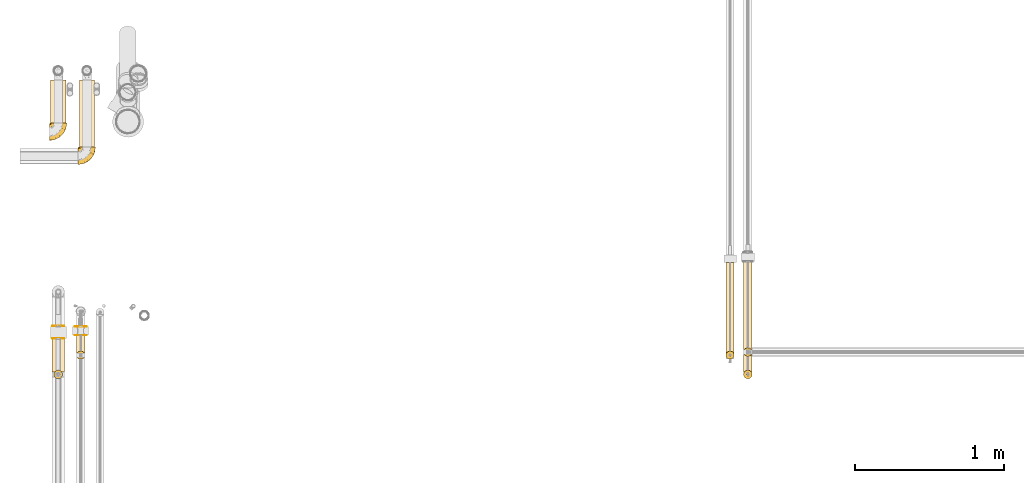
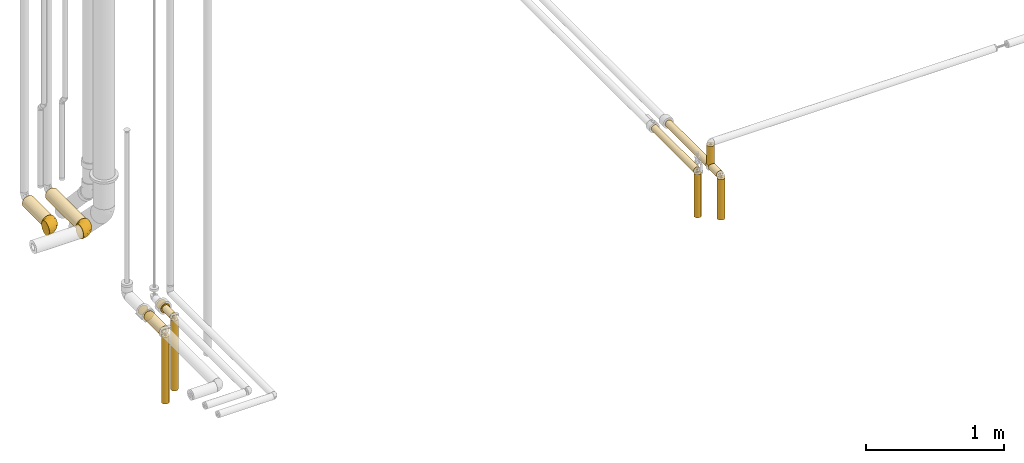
# One storey, part 2 of 78: 18 coverings.
"""IFC2X3 building model written with IfcOpenShell, lengths in millimetres."""

from ifc_helpers import new_model, entity, si_unit, converted_unit, derived_unit, direction, frame, origin_with_axes, origin_2d_with_axis, place, context, subcontext, project, spatial, hollow_circle, extrude, open_shell, surface_model, source, transform, mapped, element, save


model = new_model("IFC2X3")

# Units and contexts
model_context = context("Model", 3, precision=0.01, world=frame((0.0, 4.29681676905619e-09, 0.0)), true_north=direction((4.01073788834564e-13, 1.0)))
plan_context = context("Plan", 3, precision=0.01, world=frame((0.0, 4.29681676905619e-09, 0.0)), true_north=direction((4.01073788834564e-13, 1.0)))
body_context = subcontext(model_context, "Body", "Model", "MODEL_VIEW")
ifc_project = project(units=[converted_unit("PLANEANGLEUNIT", "DEGREE", entity("IfcPositiveLengthMeasure", 0.0174532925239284), si_unit("PLANEANGLEUNIT", "RADIAN"), dimensions=[0, 0, 0, 0, 0, 0, 0]), si_unit("AREAUNIT", "SQUARE_METRE"), si_unit("LENGTHUNIT", "METRE", prefix="MILLI"), si_unit("MASSUNIT", "GRAM", prefix="KILO"), si_unit("POWERUNIT", "WATT"), si_unit("PRESSUREUNIT", "PASCAL"), si_unit("FORCEUNIT", "NEWTON", prefix="KILO"), si_unit("ELECTRICVOLTAGEUNIT", "VOLT"), si_unit("ELECTRICCURRENTUNIT", "AMPERE"), si_unit("THERMODYNAMICTEMPERATUREUNIT", "DEGREE_CELSIUS"), si_unit("TIMEUNIT", "SECOND"), si_unit("VOLUMEUNIT", "CUBIC_METRE"), derived_unit("LINEARVELOCITYUNIT", [(si_unit("LENGTHUNIT", "METRE"), 1), (si_unit("TIMEUNIT", "SECOND"), -1)]), derived_unit("VOLUMETRICFLOWRATEUNIT", [(si_unit("VOLUMEUNIT", "CUBIC_METRE"), 1), (si_unit("TIMEUNIT", "SECOND"), -1)]), derived_unit("THERMALTRANSMITTANCEUNIT", [(si_unit("POWERUNIT", "WATT"), 1), (si_unit("THERMODYNAMICTEMPERATUREUNIT", "KELVIN"), -1), (si_unit("AREAUNIT", "SQUARE_METRE"), -1)]), derived_unit("SOUNDPRESSUREUNIT", [(si_unit("PRESSUREUNIT", "PASCAL"), 1)])], contexts=[model_context, plan_context])

# Site, building, storey
site_placement = place(None, frame((0.0, -4.29681676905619e-09, 0.0), z_axis=(0.0, 0.0, 1.0), x_axis=(1.0, 0.0, 0.0)))
site = spatial("IfcSite", under=ifc_project, at=site_placement, Name="ENGM", CompositionType="ELEMENT")
building_placement = place(site_placement, frame((0.0, 4.29681676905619e-09, 0.0), z_axis=(0.0, 0.0, 1.0), x_axis=(1.0, 0.0, 0.0)))
building = spatial("IfcBuilding", under=site, at=building_placement, Name="TH", CompositionType="ELEMENT")
storey_placement = place(building_placement, frame((0.0, 0.0, 205200.0), z_axis=(0.0, 0.0, 1.0), x_axis=(1.0, 0.0, 0.0)))
storey = spatial("IfcBuildingStorey", under=building, at=storey_placement, Name="Nivå D + 1,2 m", CompositionType="ELEMENT", Elevation=205200.0)

# Coverings
shared_shape_1 = source(origin_with_axes(), body_context, "Body", "SweptSolid", [
    extrude(hollow_circle(Radius=27.5, WallThickness=20.0, at=origin_2d_with_axis()), frame((0.0, 0.0, 0.0), z_axis=(1.0, 0.0, 0.0), x_axis=(0.0, 1.0, 0.0)), (0.0, 0.0, 1.0), 381.7),
])
covering_1_placement = place(storey_placement, frame((899890.50163, 478254.37338, 4197.79203000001), z_axis=(-1.0, 0.0, 0.0), x_axis=(0.0, 3.999999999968e-06, -0.999999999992)))
element("IfcCovering", 1, at=covering_1_placement, inside=storey, Name="BI16T - Rørskål m/Al.folie - VV 40mm", PredefinedType="INSULATION", context=body_context, shape_type="MappedRepresentation", body=[
    mapped(shared_shape_1, transform((0.0, 0.0, 0.0), scale=1.0)),
])
shared_shape_2 = source(origin_with_axes(), body_context, "Body", "SweptSolid", [
    extrude(hollow_circle(Radius=29.0, WallThickness=20.0, at=origin_2d_with_axis()), frame((0.0, 0.0, 0.0), z_axis=(1.0, 0.0, 0.0), x_axis=(0.0, 1.0, 0.0)), (0.0, 0.0, 1.0), 358.3),
])
covering_2_placement = place(storey_placement, frame((900010.50163, 478124.37013, 3833.67963999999), z_axis=(0.0, 1.0, 0.0), x_axis=(0.0, 0.0, 1.0)))
element("IfcCovering", 2, at=covering_2_placement, inside=storey, Name="BI20T - Cellegummi 13 mm kalde rør", PredefinedType="INSULATION", context=body_context, shape_type="MappedRepresentation", body=[
    mapped(shared_shape_2, transform((0.0, 0.0, 0.0), scale=1.0)),
])
shared_shape_3 = source(origin_with_axes(), body_context, "Body", "SweptSolid", [
    extrude(hollow_circle(Radius=52.0, WallThickness=27.0, at=origin_2d_with_axis()), frame((0.0, 0.0, 0.0), z_axis=(1.0, 0.0, 0.0), x_axis=(0.0, 1.0, 0.0)), (0.0, 0.0, 1.0), 291.4),
])
covering_3_placement = place(storey_placement, frame((895369.84063, 480107.50014, 4400.0), z_axis=(0.0, 0.0, 1.0), x_axis=(0.0, -1.0, 0.0)))
element("IfcCovering", 3, at=covering_3_placement, inside=storey, Name="BI20T - Cellegummi 13 mm kalde rør", PredefinedType="INSULATION", context=body_context, shape_type="MappedRepresentation", body=[
    mapped(shared_shape_3, transform((0.0, 0.0, 0.0), scale=1.0)),
])
shared_shape_4 = source(origin_with_axes(), body_context, "Body", "SweptSolid", [
    extrude(hollow_circle(Radius=52.0, WallThickness=27.0, at=origin_2d_with_axis()), frame((0.0, 0.0, 0.0), z_axis=(1.0, 0.0, 0.0), x_axis=(0.0, 1.0, 0.0)), (0.0, 0.0, 1.0), 452.8),
])
covering_4_placement = place(storey_placement, frame((895562.81931, 480107.50014, 4400.0), z_axis=(0.0, 0.0, 1.0), x_axis=(0.0, -1.0, 0.0)))
element("IfcCovering", 4, at=covering_4_placement, inside=storey, Name="BI20T - Cellegummi 13 mm kalde rør", PredefinedType="INSULATION", context=body_context, shape_type="MappedRepresentation", body=[
    mapped(shared_shape_4, transform((0.0, 0.0, 0.0), scale=1.0)),
])
shared_shape_5 = source(origin_with_axes(), body_context, "Body", "SurfaceModel", [
    surface_model("IfcShellBasedSurfaceModel", [(2.0, 0.0, 40.0), (2.0, -20.0, 34.64102), (2.0, -34.64102, 20.0), (2.0, -40.0, 0.0), (2.0, 20.0, 34.64102), (2.0, 34.64102, 20.0), (2.0, -20.0, -34.64102), (2.0, 34.64102, -20.0), (2.0, 20.0, -34.64102), (2.0, 0.0, -40.0), (2.0, 40.0, 0.0), (2.0, -34.64102, -20.0), (0.0, -34.64102, 20.0), (0.0, 0.0, 40.0), (0.0, 20.0, 34.64102), (0.0, -34.64102, -20.0), (0.0, -40.0, 0.0), (0.0, -20.0, 34.64102), (0.0, 34.64102, 20.0), (0.0, 40.0, 0.0), (0.0, 34.64102, -20.0), (0.0, 20.0, -34.64102), (0.0, -20.0, -34.64102), (0.0, 0.0, -40.0), (2.0, -36.4684, -13.1801), (0.0, -37.32051, -10.0), (0.0, -27.32051, -27.32051), (0.0, -13.1801, -36.4684), (2.0, -10.0, -37.32051), (2.0, -27.32051, -27.32051), (2.0, 13.1801, -36.4684), (0.0, 10.0, -37.32051), (0.0, 27.32051, -27.32051), (0.0, 36.4684, -13.1801), (2.0, 37.32051, -10.0), (2.0, 27.32051, -27.32051), (2.0, 36.4684, 13.1801), (0.0, 37.32051, 10.0), (0.0, 27.32051, 27.32051), (0.0, 13.1801, 36.4684), (2.0, 10.0, 37.32051), (2.0, 27.32051, 27.32051), (2.0, -13.1801, 36.4684), (0.0, -10.0, 37.32051), (0.0, -27.32051, 27.32051), (0.0, -36.4684, 13.1801), (2.0, -37.32051, 10.0), (2.0, -27.32051, 27.32051)], [open_shell([[[0, 1, 2]], [[0, 2, 3]], [[3, 4, 0]], [[5, 4, 6]], [[4, 3, 6]], [[5, 6, 7]], [[8, 6, 9]], [[7, 10, 5]], [[7, 6, 8]], [[3, 11, 6]], [[12, 13, 14]], [[15, 16, 14]], [[13, 12, 17]], [[12, 14, 16]], [[14, 18, 15]], [[19, 20, 21]], [[19, 21, 22]], [[19, 22, 15]], [[22, 21, 23]], [[19, 15, 18]], [[15, 24, 25]], [[25, 3, 16]], [[3, 25, 24]], [[6, 26, 22]], [[6, 27, 28]], [[27, 6, 22]], [[26, 6, 29]], [[23, 28, 27]], [[29, 11, 15]], [[29, 15, 26]], [[23, 9, 28]], [[15, 11, 24]], [[21, 30, 31]], [[31, 9, 23]], [[9, 31, 30]], [[7, 32, 20]], [[7, 33, 34]], [[33, 7, 20]], [[32, 7, 35]], [[19, 34, 33]], [[35, 8, 21]], [[35, 21, 32]], [[19, 10, 34]], [[21, 8, 30]], [[18, 36, 37]], [[37, 10, 19]], [[10, 37, 36]], [[4, 38, 14]], [[4, 39, 40]], [[39, 4, 14]], [[38, 4, 41]], [[13, 40, 39]], [[41, 5, 18]], [[41, 18, 38]], [[13, 0, 40]], [[18, 5, 36]], [[17, 42, 43]], [[43, 0, 13]], [[0, 43, 42]], [[2, 44, 12]], [[2, 45, 46]], [[45, 2, 12]], [[44, 2, 47]], [[16, 46, 45]], [[47, 1, 17]], [[47, 17, 44]], [[16, 3, 46]], [[17, 1, 42]]])]),
])
for number, where, z_axis, x_axis, name in (
    (5, (895520.48466, 478446.98509, 4450.0), (0.0, 0.0, 1.0), (0.0, 1.0, 0.0), "Rørskål m/Al.folje - Varme 55 (uisolert oppheng)"),
    (6, (895520.48466, 478388.98509, 4450.0), (0.0, 0.0, 1.0), (0.0, -1.0, 0.0), "Rørskål m/Al.folje - Varme 55 (uisolert oppheng)"),
):
    element("IfcCovering", number, at=place(storey_placement, frame(where, z_axis=z_axis, x_axis=x_axis)), inside=storey, Name=name, PredefinedType="INSULATION", context=body_context, shape_type="MappedRepresentation", body=[
        mapped(shared_shape_5, transform((0.0, 0.0, 0.0), scale=1.0)),
    ])
shared_shape_6 = source(origin_with_axes(), body_context, "Body", "SurfaceModel", [
    surface_model("IfcShellBasedSurfaceModel", [(3.0, 0.0, 41.5), (3.0, -20.75, 35.94006), (3.0, -35.94006, 20.75), (3.0, -35.94006, -20.75), (3.0, 20.75, 35.94006), (3.0, 35.94006, 20.75), (3.0, 41.5, 0.0), (3.0, -41.5, 0.0), (3.0, -20.75, -35.94006), (3.0, 0.0, -41.5), (3.0, 20.75, -35.94006), (3.0, 35.94006, -20.75), (0.0, -35.94006, 20.75), (0.0, 0.0, 41.5), (0.0, 20.75, 35.94006), (0.0, -35.94006, -20.75), (0.0, -20.75, 35.94006), (0.0, -41.5, 0.0), (0.0, 35.94006, 20.75), (0.0, 41.5, 0.0), (0.0, 35.94006, -20.75), (0.0, 20.75, -35.94006), (0.0, -20.75, -35.94006), (0.0, 0.0, -41.5), (3.0, -37.90279, -13.42496), (0.0, -38.72003, -10.375), (0.0, -28.34503, -28.34503), (0.0, -13.42496, -37.90279), (3.0, -10.375, -38.72003), (3.0, -28.34503, -28.34503), (3.0, 13.42496, -37.90279), (0.0, 10.375, -38.72003), (0.0, 28.34503, -28.34503), (0.0, 37.90279, -13.42496), (3.0, 38.72003, -10.375), (3.0, 28.34503, -28.34503), (3.0, 37.90279, 13.42496), (0.0, 38.72003, 10.375), (0.0, 28.34503, 28.34503), (0.0, 13.42496, 37.90279), (3.0, 10.375, 38.72003), (3.0, 28.34503, 28.34503), (3.0, -13.42496, 37.90279), (0.0, -10.375, 38.72003), (0.0, -28.34503, 28.34503), (0.0, -37.90279, 13.42496), (3.0, -38.72003, 10.375), (3.0, -28.34503, 28.34503)], [open_shell([[[0, 1, 2]], [[3, 4, 2]], [[2, 4, 0]], [[5, 4, 6]], [[3, 2, 7]], [[6, 3, 8]], [[6, 8, 9]], [[6, 10, 11]], [[10, 6, 9]], [[3, 6, 4]], [[12, 13, 14]], [[14, 15, 12]], [[13, 12, 16]], [[17, 12, 15]], [[14, 18, 15]], [[19, 20, 21]], [[19, 21, 22]], [[19, 22, 15]], [[22, 21, 23]], [[19, 15, 18]], [[15, 24, 25]], [[25, 7, 17]], [[7, 25, 24]], [[8, 26, 22]], [[8, 27, 28]], [[27, 8, 22]], [[26, 8, 29]], [[23, 28, 27]], [[29, 3, 15]], [[29, 15, 26]], [[23, 9, 28]], [[15, 3, 24]], [[21, 30, 31]], [[31, 9, 23]], [[9, 31, 30]], [[11, 32, 20]], [[11, 33, 34]], [[33, 11, 20]], [[32, 11, 35]], [[19, 34, 33]], [[35, 10, 21]], [[35, 21, 32]], [[19, 6, 34]], [[21, 10, 30]], [[18, 36, 37]], [[37, 6, 19]], [[6, 37, 36]], [[4, 38, 14]], [[4, 39, 40]], [[39, 4, 14]], [[38, 4, 41]], [[13, 40, 39]], [[41, 5, 18]], [[41, 18, 38]], [[13, 0, 40]], [[18, 5, 36]], [[16, 42, 43]], [[43, 0, 13]], [[0, 43, 42]], [[2, 44, 12]], [[2, 45, 46]], [[45, 2, 12]], [[44, 2, 47]], [[17, 46, 45]], [[47, 1, 16]], [[47, 16, 44]], [[17, 7, 46]], [[16, 1, 42]]])]),
])
for number, where, z_axis, x_axis in (
    (7, (895369.5, 478448.45641, 4450.0), (0.0, 0.0, 1.0), (0.0, 1.0, 0.0)),
    (8, (895369.5, 478367.45641, 4450.0), (0.0, 0.0, 1.0), (0.0, -1.0, 0.0)),
):
    element("IfcCovering", number, at=place(storey_placement, frame(where, z_axis=z_axis, x_axis=x_axis)), inside=storey, Name="BI20T - Cellegummi 13 mm kalde rør", PredefinedType="INSULATION", context=body_context, shape_type="MappedRepresentation", body=[
        mapped(shared_shape_6, transform((0.0, 0.0, 0.0), scale=1.0)),
    ])
shared_shape_7 = source(origin_with_axes(), body_context, "Body", "SweptSolid", [
    extrude(hollow_circle(Radius=27.5, WallThickness=20.0, at=origin_2d_with_axis()), frame((0.0, 0.0, 0.0), z_axis=(1.0, 0.0, 0.0), x_axis=(0.0, 1.0, 0.0)), (0.0, 0.0, 1.0), 613.8),
])
covering_5_placement = place(storey_placement, frame((899890.50163, 478879.43178, 4212.79203000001), z_axis=(0.0, 0.0, 1.0), x_axis=(0.0, -1.0, 0.0)))
element("IfcCovering", 9, at=covering_5_placement, inside=storey, Name="BI16T - Rørskål m/Al.folie - VV 40mm", PredefinedType="INSULATION", context=body_context, shape_type="MappedRepresentation", body=[
    mapped(shared_shape_7, transform((0.0, 0.0, 0.0), scale=1.0)),
])
shared_shape_8 = source(origin_with_axes(), body_context, "Body", "SweptSolid", [
    extrude(hollow_circle(Radius=29.0, WallThickness=20.0, at=origin_2d_with_axis()), frame((0.0, 0.0, 0.0), z_axis=(1.0, 0.0, 0.0), x_axis=(0.0, 1.0, 0.0)), (0.0, 0.0, 1.0), 115.1),
])
covering_6_placement = place(storey_placement, frame((900010.50163, 478257.49112, 4210.0), z_axis=(0.0, 0.0, 1.0), x_axis=(0.0, -1.0, 0.0)))
element("IfcCovering", 10, at=covering_6_placement, inside=storey, Name="BI20T - Cellegummi 13 mm kalde rør", PredefinedType="INSULATION", context=body_context, shape_type="MappedRepresentation", body=[
    mapped(shared_shape_8, transform((0.0, 0.0, 0.0), scale=1.0)),
])
shared_shape_9 = source(origin_with_axes(), body_context, "Body", "SurfaceModel", [
    surface_model("IfcShellBasedSurfaceModel", [(0.0, 60.4, 57.2), (12.73183, 60.4, 55.76505), (24.82435, 60.4, 51.53243), (35.67108, 60.4, 44.71481), (44.72807, 60.4, 35.65444), (51.54128, 60.4, 24.80597), (-51.53243, 60.4, 24.82435), (-12.71364, 60.4, 55.7692), (55.7692, 60.4, 12.71364), (-24.80597, 60.4, 51.54128), (-35.65444, 60.4, 44.72807), (-44.71481, 60.4, 35.67108), (-57.2, 60.4, 0.0), (-55.76505, 60.4, 12.73183), (57.2, 60.4, 0.0), (55.76505, 60.4, -12.73183), (51.53243, 60.4, -24.82435), (-44.72807, 60.4, -35.65444), (44.71481, 60.4, -35.67108), (35.65444, 60.4, -44.72807), (24.80597, 60.4, -51.54128), (12.71364, 60.4, -55.7692), (0.0, 60.4, -57.2), (-55.7692, 60.4, -12.71364), (-51.54128, 60.4, -24.80597), (-12.73183, 60.4, -55.76505), (-35.67108, 60.4, -44.71481), (-24.82435, 60.4, -51.53243), (-60.4, 55.25096, -14.80445), (-60.4, 55.25096, 14.80445), (-60.4, 57.2, 0.0), (-60.4, 28.6, -49.53665), (-60.4, 49.53665, -28.6), (-60.4, 14.80445, 55.25096), (-60.4, -14.80445, 55.25096), (-60.4, 40.44651, -40.44651), (-60.4, 40.44651, 40.44651), (-60.4, 49.53665, 28.6), (-60.4, 28.6, 49.53665), (-60.4, 0.0, 57.2), (-60.4, 0.0, -57.2), (-60.4, 14.80445, -55.25096), (-60.4, -14.80445, -55.25096), (-60.4, -49.53665, -28.6), (-60.4, -28.6, -49.53665), (-60.4, -55.25096, -14.80445), (-60.4, -40.44651, -40.44651), (-60.4, -57.2, 0.0), (-60.4, -40.44651, 40.44651), (-60.4, -28.6, 49.53665), (-60.4, -55.25096, 14.80445), (-60.4, -49.53665, 28.6), (-16.40032, -39.44212, 29.99051), (-33.2938, -50.47449, 19.59265), (-5.124, -41.18263, 14.81537), (-24.0596, -51.44425, 0.0), (-35.9732, -53.88484, 9.1332), (-46.33407, -54.97218, 0.0), (20.27058, -20.27058, 19.7412), (5.7313, -26.1495, 30.28832), (-39.92996, -44.9732, 32.68315), (-16.39908, -0.01959, 55.37238), (-17.69075, 17.69075, 57.2), (-37.28592, 4.59768, 57.2), (-33.91818, -34.60383, 42.55163), (-9.09239, -26.54028, 40.34186), (-20.91364, -19.95893, 49.22319), (26.86043, 5.12569, 37.84115), (28.539, 23.36269, 44.4968), (15.96395, 5.32617, 46.18062), (5.87121, 10.59134, 52.58793), (-2.70981, 19.14225, 56.22334), (-1.34864, -7.7114, 48.85735), (11.85537, -11.33448, 39.45229), (31.39762, 43.4811, 46.76057), (-38.98003, -8.59579, 55.96028), (-42.72189, -23.23046, 51.40924), (51.4364, 33.21936, 16.75188), (44.01195, 8.75017, 11.22164), (40.70656, 13.12928, 25.48046), (32.27055, -4.52079, 22.12365), (31.19884, -11.52169, 11.35985), (21.80864, -11.14481, 30.19434), (46.73576, 34.10851, 27.93512), (40.12029, 36.73404, 37.8698), (54.97218, 46.33407, 0.0), (34.7404, -8.72355, 0.0), (21.73197, -21.73197, 0.0), (8.17658, 38.87329, 56.03698), (-4.59768, 37.28592, 57.2), (19.97965, 36.14668, 52.12307), (51.44425, 24.0596, 0.0), (8.72355, -34.7404, 0.0), (15.2979, -28.43751, 10.02581), (43.09232, 7.66803, 0.0), (-7.66803, -43.09232, 0.0), (-51.70903, 1.72874, 57.2), (-49.43436, 55.5961, 30.43919), (-46.63139, 51.34868, 36.64199), (-40.87108, 51.30816, 41.97457), (-55.90138, 35.21985, 45.37981), (-50.38202, 23.21534, 52.84591), (-50.51528, 36.80827, 45.37981), (-56.4927, 45.89693, 34.82115), (-59.9746, 57.37621, 0.0), (-43.40175, 25.10633, 53.11578), (-58.73575, 53.03152, 21.88949), (-57.55241, 59.5492, 0.0), (-56.00149, 57.50046, 15.24231), (-54.19121, 58.80005, 18.89697), (-36.79791, 28.33635, 53.3671), (-28.32927, 21.52677, 56.31821), (-29.41131, 31.08185, 54.37943), (-1.72874, 51.70903, 57.2), (-57.84483, 58.84323, 0.0), (-58.47664, 56.66049, 10.67607), (-59.26863, 57.66863, 0.0), (-59.29878, 56.42374, 10.25036), (-22.73556, 35.93141, 55.06399), (-20.19199, 50.03912, 53.99482), (-32.94093, 48.37057, 48.43934), (-48.64642, 58.12491, 30.43919), (-41.07043, 55.41908, 40.45403), (-30.96786, 54.70291, 48.43934), (-46.17013, 46.40169, 40.45403), (-39.56815, 46.07446, 45.1506), (-52.25273, 46.76303, 35.92057), (-53.62524, 53.42082, 26.53384), (-56.91191, 53.69944, 21.88949), (-38.81793, 38.81285, 48.77847), (-46.23404, 40.1485, 44.70316), (-52.05558, 54.67223, 27.27403), (-57.11198, 56.8451, 13.60836), (-11.14421, 27.48834, 57.2), (-46.97172, 11.91358, 56.30331), (-37.24986, 17.10437, 56.07196), (-58.13726, 58.13726, 0.0), (-58.70294, 57.90294, 0.0), (-27.48834, 11.14421, 57.2), (-31.95453, 40.54977, 51.09475), (-58.73575, 53.03152, -21.88949), (-59.29878, 56.42374, -10.25036), (-56.91191, 53.69944, -21.88949), (-30.98517, 54.7063, -48.42825), (-41.08499, 55.42283, -40.43899), (-58.47664, 56.66049, -10.67607), (-22.75073, 35.92579, -55.06127), (-20.20993, 50.04337, -53.98837), (-4.59768, 37.28592, -57.2), (-46.97171, 11.91356, -56.30332), (-50.38125, 23.21554, -52.84591), (-53.62583, 53.41296, -26.54383), (-52.0661, 54.67597, -27.25413), (-46.63502, 51.35364, -36.63509), (-55.90053, 35.22001, -45.37981), (-56.00468, 57.50344, -15.22674), (-54.19744, 58.80171, -18.87854), (-49.44451, 55.60056, -30.42155), (-56.4924, 45.89701, -34.82115), (-50.51383, 36.80888, -45.37981), (-40.89055, 51.31359, -41.95609), (-32.9571, 48.37762, -48.42825), (-39.57579, 46.07566, -45.14517), (-48.6573, 58.127, -30.42154), (-52.25324, 46.76172, -35.92164), (-46.18085, 46.41223, -40.43899), (-57.11122, 56.84451, -13.61226), (-38.83168, 38.81715, -48.77065), (-31.52927, 41.35373, -51.04452), (-29.4231, 31.0808, -54.37687), (-1.72874, 51.70903, -57.2), (-37.28592, 4.59768, -57.2), (-37.25051, 17.10289, -56.07216), (-17.69075, 17.69075, -57.2), (-11.14421, 27.48834, -57.2), (-28.33044, 21.52992, -56.31765), (-27.48834, 11.14421, -57.2), (-46.24666, 40.16569, -44.68614), (-43.40163, 25.09957, -53.11824), (-51.70903, 1.72874, -57.2), (-36.80414, 28.33497, -53.3661), (-19.1226, 2.69036, -56.21823), (-35.97321, -53.88483, -9.1333), (-32.63535, -34.40888, -42.40278), (-10.78926, -21.08989, -45.23931), (-2.91839, -27.13546, -36.15861), (3.4189, -31.14576, -25.51266), (-16.39123, -39.43886, -29.98941), (10.86028, 33.39637, -54.97306), (-38.60134, -8.99179, -55.85413), (-5.12319, -41.18255, -14.81419), (-33.29034, -50.47376, -19.59235), (-35.75037, -22.52536, -50.89239), (-39.92461, -44.97257, -32.68257), (40.69864, 13.13181, -25.49703), (51.43099, 33.21953, -16.76917), (44.00251, 8.73404, -11.22815), (29.94469, -4.98116, -25.66159), (20.26994, -20.26994, -19.74366), (15.78005, -17.49223, -30.24098), (17.10392, 20.9258, -50.65058), (21.66375, 41.15246, -51.97185), (33.34067, -7.30988, -14.85602), (15.29773, -28.43735, -10.0271), (39.49114, 32.68303, -37.41609), (31.1561, 39.39309, -46.33826), (32.19935, 7.55767, -33.70356), (-0.00702, 16.42569, -55.382), (7.89271, -0.46499, -48.02004), (47.76845, 40.22751, -28.43182), (27.11171, 13.74523, -42.05495), (-10.55804, -5.90498, -52.56779), (11.84664, -11.32453, -39.46615)], [open_shell([[[0, 1, 2]], [[0, 2, 3]], [[4, 5, 6]], [[3, 4, 7]], [[7, 0, 3]], [[6, 5, 8]], [[9, 6, 10]], [[9, 7, 4]], [[11, 10, 6]], [[12, 13, 6]], [[6, 9, 4]], [[8, 12, 6]], [[8, 14, 12]], [[14, 15, 16]], [[16, 17, 12]], [[18, 19, 20]], [[18, 20, 17]], [[17, 16, 18]], [[21, 22, 20]], [[23, 17, 24]], [[12, 17, 23]], [[25, 26, 17]], [[27, 26, 25]], [[20, 25, 17]], [[20, 22, 25]], [[16, 12, 14]], [[28, 29, 30]], [[31, 28, 32]], [[33, 28, 34]], [[31, 32, 35]], [[28, 31, 34]], [[29, 36, 37]], [[29, 28, 36]], [[36, 33, 38]], [[28, 33, 36]], [[33, 34, 39]], [[40, 31, 41]], [[34, 31, 42]], [[43, 42, 44]], [[43, 45, 42]], [[43, 44, 46]], [[47, 42, 45]], [[34, 48, 49]], [[48, 34, 50]], [[48, 50, 51]], [[50, 34, 47]], [[34, 42, 47]], [[42, 31, 40]], [[52, 53, 54]], [[55, 56, 57]], [[54, 58, 59]], [[53, 52, 60]], [[61, 62, 63]], [[64, 65, 66]], [[53, 51, 50]], [[67, 68, 69]], [[64, 49, 48]], [[60, 48, 51]], [[70, 71, 61]], [[72, 73, 69]], [[3, 2, 74]], [[75, 61, 63]], [[49, 76, 34]], [[5, 77, 8]], [[66, 61, 75]], [[78, 77, 79]], [[78, 80, 81]], [[73, 82, 67]], [[4, 83, 5]], [[66, 76, 64]], [[83, 4, 84]], [[77, 85, 8]], [[73, 59, 82]], [[77, 83, 79]], [[86, 81, 87]], [[84, 3, 74]], [[88, 0, 89]], [[90, 1, 88]], [[63, 39, 75]], [[91, 77, 78]], [[89, 62, 71]], [[74, 90, 68]], [[92, 93, 54]], [[50, 57, 56]], [[4, 3, 84]], [[72, 61, 66]], [[67, 84, 68]], [[90, 2, 1]], [[73, 65, 59]], [[61, 71, 62]], [[71, 88, 89]], [[69, 90, 70]], [[60, 64, 48]], [[65, 73, 72]], [[39, 34, 75]], [[75, 34, 76]], [[54, 53, 56]], [[93, 81, 58]], [[85, 77, 91]], [[85, 14, 8]], [[88, 70, 90]], [[88, 71, 70]], [[0, 88, 1]], [[79, 67, 80]], [[78, 86, 94]], [[64, 52, 65]], [[59, 58, 82]], [[65, 52, 59]], [[54, 59, 52]], [[53, 60, 51]], [[64, 60, 52]], [[80, 82, 58]], [[90, 69, 68]], [[80, 67, 82]], [[84, 67, 79]], [[72, 69, 70]], [[73, 67, 69]], [[61, 72, 70]], [[72, 66, 65]], [[81, 80, 58]], [[78, 79, 80]], [[87, 81, 93]], [[78, 81, 86]], [[87, 93, 92]], [[58, 54, 93]], [[54, 55, 95]], [[90, 74, 2]], [[84, 74, 68]], [[50, 47, 57]], [[50, 56, 53]], [[64, 76, 49]], [[75, 76, 66]], [[5, 83, 77]], [[84, 79, 83]], [[55, 54, 56]], [[95, 92, 54]], [[94, 91, 78]], [[33, 39, 96]], [[97, 98, 99]], [[100, 101, 102]], [[36, 100, 103]], [[29, 104, 30]], [[101, 105, 102]], [[37, 106, 29]], [[107, 108, 109]], [[110, 111, 112]], [[13, 107, 109]], [[7, 113, 0]], [[103, 37, 36]], [[108, 107, 114]], [[115, 116, 117]], [[36, 38, 100]], [[118, 119, 120]], [[119, 113, 7]], [[9, 119, 7]], [[11, 6, 121]], [[116, 104, 117]], [[10, 11, 122]], [[119, 9, 123]], [[13, 12, 107]], [[120, 123, 122]], [[109, 97, 121]], [[118, 89, 119]], [[98, 124, 125]], [[38, 33, 101]], [[97, 109, 108]], [[126, 127, 128]], [[129, 130, 110]], [[98, 131, 127]], [[102, 126, 103]], [[9, 10, 123]], [[121, 122, 11]], [[109, 6, 13]], [[132, 127, 108]], [[125, 124, 129]], [[118, 62, 133]], [[134, 96, 63]], [[135, 111, 110]], [[135, 105, 134]], [[110, 112, 129]], [[102, 130, 126]], [[106, 103, 128]], [[122, 123, 10]], [[89, 113, 119]], [[119, 123, 120]], [[109, 121, 6]], [[122, 121, 97]], [[103, 106, 37]], [[117, 29, 106]], [[127, 126, 124]], [[128, 103, 126]], [[127, 124, 98]], [[132, 108, 136]], [[128, 115, 117]], [[29, 117, 104]], [[96, 134, 33]], [[128, 117, 106]], [[132, 128, 127]], [[132, 137, 115]], [[135, 134, 63]], [[137, 116, 115]], [[33, 134, 101]], [[135, 138, 111]], [[105, 135, 110]], [[112, 111, 62]], [[138, 135, 63]], [[138, 62, 111]], [[125, 139, 120]], [[112, 118, 139]], [[130, 129, 124]], [[139, 125, 129]], [[120, 122, 99]], [[99, 125, 120]], [[98, 97, 131]], [[97, 108, 131]], [[108, 127, 131]], [[126, 130, 124]], [[130, 102, 105]], [[112, 139, 129]], [[120, 139, 118]], [[97, 99, 122]], [[98, 125, 99]], [[101, 100, 38]], [[103, 100, 102]], [[105, 110, 130]], [[134, 105, 101]], [[137, 132, 136]], [[128, 132, 115]], [[62, 118, 112]], [[114, 136, 108]], [[133, 89, 118]], [[140, 141, 142]], [[143, 144, 26]], [[28, 30, 104]], [[142, 141, 145]], [[146, 147, 148]], [[140, 32, 28]], [[149, 41, 150]], [[151, 152, 153]], [[35, 154, 31]], [[155, 156, 157]], [[158, 35, 32]], [[31, 154, 150]], [[107, 23, 156]], [[26, 27, 143]], [[159, 154, 158]], [[160, 161, 162]], [[24, 163, 156]], [[31, 150, 41]], [[144, 157, 163]], [[24, 156, 23]], [[164, 151, 165]], [[155, 151, 166]], [[167, 162, 168]], [[12, 23, 107]], [[144, 17, 26]], [[168, 169, 167]], [[148, 147, 170]], [[147, 27, 25]], [[159, 158, 164]], [[143, 147, 161]], [[144, 161, 160]], [[171, 149, 172]], [[147, 146, 168]], [[163, 24, 17]], [[147, 25, 170]], [[155, 107, 156]], [[155, 136, 114]], [[173, 146, 174]], [[175, 176, 172]], [[140, 158, 32]], [[164, 165, 177]], [[177, 178, 159]], [[141, 116, 145]], [[167, 177, 165]], [[25, 22, 170]], [[147, 143, 27]], [[144, 143, 161]], [[144, 163, 17]], [[156, 163, 157]], [[104, 141, 28]], [[158, 140, 142]], [[158, 142, 164]], [[151, 164, 142]], [[142, 145, 166]], [[153, 152, 157]], [[141, 104, 116]], [[179, 149, 171]], [[179, 40, 41]], [[28, 141, 140]], [[145, 116, 137]], [[166, 136, 155]], [[41, 149, 179]], [[166, 137, 136]], [[172, 178, 180]], [[178, 149, 150]], [[175, 172, 180]], [[169, 175, 180]], [[176, 171, 172]], [[175, 173, 176]], [[167, 169, 180]], [[169, 146, 173]], [[180, 178, 177]], [[162, 167, 165]], [[180, 177, 167]], [[164, 177, 159]], [[153, 162, 165]], [[168, 162, 161]], [[151, 153, 165]], [[160, 157, 144]], [[151, 155, 152]], [[155, 157, 152]], [[147, 168, 161]], [[168, 146, 169]], [[162, 153, 160]], [[157, 160, 153]], [[158, 154, 35]], [[150, 154, 159]], [[149, 178, 172]], [[159, 178, 150]], [[142, 166, 151]], [[137, 166, 145]], [[146, 148, 174]], [[107, 155, 114]], [[173, 175, 169]], [[173, 181, 171]], [[45, 182, 57]], [[183, 184, 185]], [[185, 186, 187]], [[148, 22, 188]], [[171, 189, 40]], [[190, 191, 187]], [[190, 55, 182]], [[182, 45, 191]], [[183, 192, 184]], [[192, 44, 42]], [[193, 191, 43]], [[43, 46, 193]], [[193, 183, 187]], [[194, 195, 196]], [[183, 46, 44]], [[197, 198, 199]], [[40, 189, 42]], [[200, 188, 201]], [[198, 202, 203]], [[22, 21, 188]], [[195, 16, 15]], [[18, 204, 19]], [[19, 205, 20]], [[197, 206, 194]], [[173, 148, 207]], [[208, 207, 200]], [[192, 42, 189]], [[86, 87, 202]], [[209, 16, 195]], [[205, 210, 200]], [[16, 209, 18]], [[91, 195, 85]], [[211, 207, 208]], [[205, 19, 204]], [[194, 204, 209]], [[195, 15, 85]], [[194, 202, 197]], [[196, 195, 91]], [[201, 20, 205]], [[181, 207, 211]], [[43, 191, 45]], [[181, 189, 171]], [[184, 211, 208]], [[211, 192, 189]], [[44, 192, 183]], [[211, 184, 192]], [[185, 184, 212]], [[190, 187, 186]], [[203, 92, 190]], [[194, 209, 195]], [[204, 18, 209]], [[210, 205, 204]], [[201, 205, 200]], [[206, 204, 194]], [[208, 210, 212]], [[207, 181, 173]], [[189, 181, 211]], [[15, 14, 85]], [[196, 91, 94]], [[197, 202, 198]], [[183, 193, 46]], [[191, 193, 187]], [[188, 200, 207]], [[21, 20, 201]], [[148, 188, 207]], [[21, 201, 188]], [[57, 182, 55]], [[57, 47, 45]], [[190, 182, 191]], [[186, 199, 198]], [[183, 185, 187]], [[199, 185, 212]], [[186, 198, 203]], [[185, 199, 186]], [[210, 206, 212]], [[199, 212, 206]], [[202, 194, 196]], [[196, 86, 202]], [[92, 203, 87]], [[87, 203, 202]], [[95, 55, 190]], [[186, 203, 190]], [[206, 197, 199]], [[204, 206, 210]], [[210, 208, 200]], [[184, 208, 212]], [[190, 92, 95]], [[86, 196, 94]]])]),
])
for number, where, z_axis, x_axis in (
    (11, (895369.84063, 479755.66669, 4400.0), (0.0, 0.0, 1.0), (1.0, 0.0, 0.0)),
    (12, (895562.81931, 479594.31945, 4400.0), (0.0, 0.0, 1.0), (1.0, 0.0, 0.0)),
):
    element("IfcCovering", number, at=place(storey_placement, frame(where, z_axis=z_axis, x_axis=x_axis)), inside=storey, Name="BI20T - Cellegummi 13 mm kalde rør", PredefinedType="INSULATION", context=body_context, shape_type="MappedRepresentation", body=[
        mapped(shared_shape_9, transform((0.0, 0.0, 0.0), scale=1.0)),
    ])
shared_shape_10 = source(origin_with_axes(), body_context, "Body", "SweptSolid", [
    extrude(hollow_circle(Radius=29.0, WallThickness=20.0, at=origin_2d_with_axis()), frame((0.0, 0.0, 0.0), z_axis=(1.0, 0.0, 0.0), x_axis=(0.0, 1.0, 0.0)), (0.0, 0.0, 1.0), 168.5),
])
covering_7_placement = place(storey_placement, frame((900010.50163, 478275.49112, 4223.5), z_axis=(-1.0, 0.0, 0.0), x_axis=(0.0, 0.0, 1.0)))
element("IfcCovering", 13, at=covering_7_placement, inside=storey, Name="BI20T - Cellegummi 13 mm kalde rør", PredefinedType="INSULATION", context=body_context, shape_type="MappedRepresentation", body=[
    mapped(shared_shape_10, transform((0.0, 0.0, 0.0), scale=1.0)),
])
shared_shape_11 = source(origin_with_axes(), body_context, "Body", "SweptSolid", [
    extrude(hollow_circle(Radius=29.0, WallThickness=20.0, at=origin_2d_with_axis()), frame((0.0, 0.0, 0.0), z_axis=(1.0, 0.0, 0.0), x_axis=(0.0, 1.0, 0.0)), (0.0, 0.0, 1.0), 589.5),
])
for number, where, z_axis, x_axis in (
    (14, (900010.50163, 478882.96045, 4210.0), (0.0, 0.0, 1.0), (0.0, -1.0, 0.0)),
    (15, (895369.5, 478124.37013, 4423.75), (-1.0, 0.0, 0.0), (0.0, 3.999999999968e-06, -0.999999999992)),
):
    element("IfcCovering", number, at=place(storey_placement, frame(where, z_axis=z_axis, x_axis=x_axis)), inside=storey, Name="BI20T - Cellegummi 13 mm kalde rør", PredefinedType="INSULATION", context=body_context, shape_type="MappedRepresentation", body=[
        mapped(shared_shape_11, transform((0.0, 0.0, 0.0), scale=1.0)),
    ])
shared_shape_12 = source(origin_with_axes(), body_context, "Body", "SweptSolid", [
    extrude(hollow_circle(Radius=41.5, WallThickness=24.0, at=origin_2d_with_axis()), frame((0.0, 0.0, 0.0), z_axis=(1.0, 0.0, 0.0), x_axis=(0.0, 1.0, 0.0)), (0.0, 0.0, 1.0), 222.1),
])
covering_8_placement = place(storey_placement, frame((895369.5, 478364.45641, 4450.0), z_axis=(0.0, 0.0, 1.0), x_axis=(0.0, -1.0, 0.0)))
element("IfcCovering", 16, at=covering_8_placement, inside=storey, Name="BI20T - Cellegummi 13 mm kalde rør", PredefinedType="INSULATION", context=body_context, shape_type="MappedRepresentation", body=[
    mapped(shared_shape_12, transform((0.0, 0.0, 0.0), scale=1.0)),
])
shared_shape_13 = source(origin_with_axes(), body_context, "Body", "SweptSolid", [
    extrude(hollow_circle(Radius=27.5, WallThickness=20.0, at=origin_2d_with_axis()), frame((0.0, 0.0, 0.0), z_axis=(1.0, 0.0, 0.0), x_axis=(0.0, 1.0, 0.0)), (0.0, 0.0, 1.0), 620.4),
])
covering_9_placement = place(storey_placement, frame((895520.48466, 478254.37338, 4436.5), z_axis=(-1.0, 0.0, 0.0), x_axis=(0.0, 3.999999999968e-06, -0.999999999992)))
element("IfcCovering", 17, at=covering_9_placement, inside=storey, Name="BI16T - Rørskål m/Al.folie - VV 40mm", PredefinedType="INSULATION", context=body_context, shape_type="MappedRepresentation", body=[
    mapped(shared_shape_13, transform((0.0, 0.0, 0.0), scale=1.0)),
])
shared_shape_14 = source(origin_with_axes(), body_context, "Body", "SweptSolid", [
    extrude(hollow_circle(Radius=29.0, WallThickness=20.0, at=origin_2d_with_axis()), frame((0.0, 0.0, 0.0), z_axis=(1.0, 0.0, 0.0), x_axis=(0.0, 1.0, 0.0)), (0.0, 0.0, 1.0), 117.6),
])
covering_10_placement = place(storey_placement, frame((895520.48466, 478386.98509, 4450.0), z_axis=(0.0, 0.0, 1.0), x_axis=(0.0, -1.0, 0.0)))
element("IfcCovering", 18, at=covering_10_placement, inside=storey, Name="Rørskål m/Al.folje - Varme 55 (uisolert oppheng)", PredefinedType="INSULATION", context=body_context, shape_type="MappedRepresentation", body=[
    mapped(shared_shape_14, transform((0.0, 0.0, 0.0), scale=1.0)),
])

save(model, "model.ifc")
